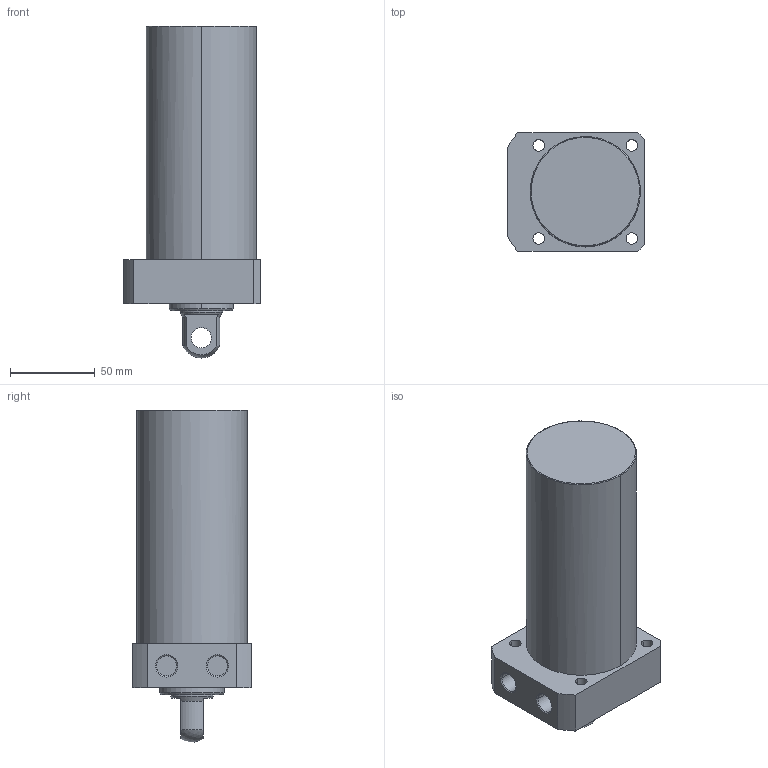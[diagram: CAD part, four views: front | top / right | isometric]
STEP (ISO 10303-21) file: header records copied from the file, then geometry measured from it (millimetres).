
FILE_DESCRIPTION((' '),'2;1');
FILE_NAME( 'TLLR-065CP-105.STEP.stp', '2025-10-24T16:35:03', (' '), ('--- Datakit www.datakit.com---'), ' Datakit CrossCadWare V2024.1 Dec 21 2023', 'Mastercam 2025', ' ');
FILE_SCHEMA(('AUTOMOTIVE_DESIGN { 1 0 10303 214 1 1 1 1 }'));
Length unit declared in the file: millimetre
Products named in the file (1): TLLR-065CP-105
Bounding box: 81 x 70 x 195.92 mm (x, y, z)
Volume: 605557.2 mm3; surface area: 52544.1 mm2
Topology: 1 solids, 1 shells, 57 faces, 164 edges, 116 vertices
Faces by surface type: cylinder 28, plane 18, cone 8, torus 2, sphere 1
Entity records: 2006 total; most frequent: DIRECTION 378, CARTESIAN_POINT 350, ORIENTED_EDGE 328, EDGE_CURVE 164, AXIS2_PLACEMENT_3D 160, VERTEX_POINT 116, CIRCLE 102, EDGE_LOOP 74
